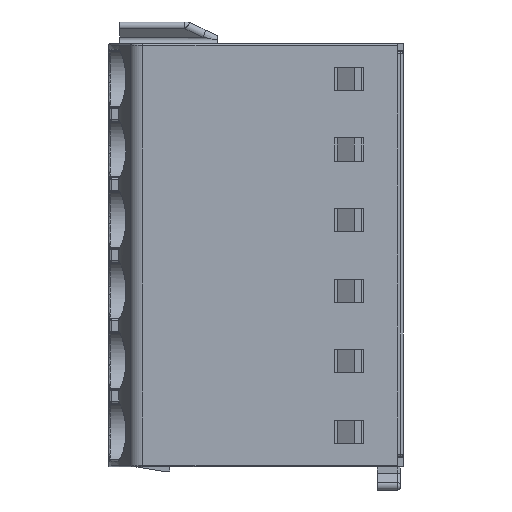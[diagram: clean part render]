
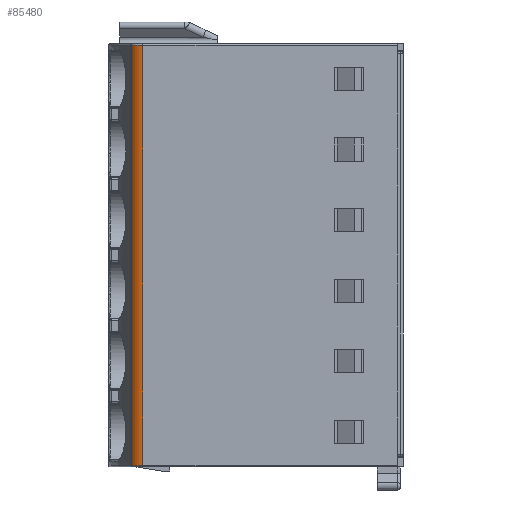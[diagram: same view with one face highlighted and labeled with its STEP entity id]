
A CAD part, left-side view. The second image highlights one B-rep face of the part: STEP entity #85480.
In plain terms, the highlighted cylindrical face has radius 1 mm (diameter 2 mm), a partial arc.
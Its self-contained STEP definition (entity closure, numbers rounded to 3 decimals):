
#3852=DIRECTION('',(0.,0.,-1.));
#3853=VECTOR('',#3852,0.2);
#3854=CARTESIAN_POINT('',(-2.3,16.741,
-14.4));
#3855=LINE('',#3854,#3853);
#3856=DIRECTION('',(0.,0.,-1.));
#3857=VECTOR('',#3856,5.);
#3858=CARTESIAN_POINT('',(-2.3,16.741,
-14.6));
#3859=LINE('',#3858,#3857);
#3860=DIRECTION('',(0.,0.,-1.));
#3861=VECTOR('',#3860,0.2);
#3862=CARTESIAN_POINT('',(-2.3,16.741,
-19.6));
#3863=LINE('',#3862,#3861);
#3864=DIRECTION('',(0.,0.,-1.));
#3865=VECTOR('',#3864,5.);
#3866=CARTESIAN_POINT('',(-2.3,16.741,
-19.8));
#3867=LINE('',#3866,#3865);
#3868=DIRECTION('',(0.,0.,-1.));
#3869=VECTOR('',#3868,0.2);
#3870=CARTESIAN_POINT('',(-2.3,16.741,
-24.8));
#3871=LINE('',#3870,#3869);
#3872=DIRECTION('',(0.,0.,-1.));
#3873=VECTOR('',#3872,5.);
#3874=CARTESIAN_POINT('',(-2.3,16.741,
-25.));
#3875=LINE('',#3874,#3873);
#3876=DIRECTION('',(0.,0.,1.));
#3877=VECTOR('',#3876,31.);
#3878=CARTESIAN_POINT('',(-1.775,17.616,-30.));
#3879=LINE('',#3878,#3877);
#3880=DIRECTION('',(0.,0.,-1.));
#3881=VECTOR('',#3880,5.);
#3882=CARTESIAN_POINT('',(-2.3,16.741,1.));
#3883=LINE('',#3882,#3881);
#3884=DIRECTION('',(0.,0.,-1.));
#3885=VECTOR('',#3884,0.2);
#3886=CARTESIAN_POINT('',(-2.3,16.741,
-4.));
#3887=LINE('',#3886,#3885);
#3888=DIRECTION('',(0.,0.,-1.));
#3889=VECTOR('',#3888,5.);
#3890=CARTESIAN_POINT('',(-2.3,16.741,
-4.2));
#3891=LINE('',#3890,#3889);
#3892=DIRECTION('',(0.,0.,-1.));
#3893=VECTOR('',#3892,0.2);
#3894=CARTESIAN_POINT('',(-2.3,16.741,
-9.2));
#3895=LINE('',#3894,#3893);
#3932=DIRECTION('',(0.,0.,1.));
#3933=VECTOR('',#3932,5.);
#3934=CARTESIAN_POINT('',(-2.3,16.741,
-14.4));
#3935=LINE('',#3934,#3933);
#4354=CARTESIAN_POINT('',(-1.3,16.736,-30.));
#4355=DIRECTION('',(0.,0.,1.));
#4356=DIRECTION('',(-0.475,0.88,0.));
#4357=AXIS2_PLACEMENT_3D('',#4354,#4355,#4356);
#4712=CARTESIAN_POINT('',(-1.3,16.736,1.));
#4713=DIRECTION('',(0.,0.,-1.));
#4714=DIRECTION('',(-1.,0.005,0.));
#4715=AXIS2_PLACEMENT_3D('',#4712,#4713,#4714);
#66046=CARTESIAN_POINT('',(-1.775,17.616,1.));
#66047=VERTEX_POINT('',#66046);
#67506=CARTESIAN_POINT('',(-2.3,16.741,1.));
#67507=VERTEX_POINT('',#67506);
#67508=CARTESIAN_POINT('',(-2.3,16.741,
-4.));
#67509=VERTEX_POINT('',#67508);
#67510=CARTESIAN_POINT('',(-2.3,16.741,
-4.2));
#67511=VERTEX_POINT('',#67510);
#67512=CARTESIAN_POINT('',(-2.3,16.741,
-9.2));
#67513=VERTEX_POINT('',#67512);
#67514=CARTESIAN_POINT('',(-2.3,16.741,
-9.4));
#67515=VERTEX_POINT('',#67514);
#73240=CARTESIAN_POINT('',(-1.775,17.616,-30.));
#73241=VERTEX_POINT('',#73240);
#75293=CARTESIAN_POINT('',(-2.3,16.741,-30.));
#75294=VERTEX_POINT('',#75293);
#75295=CARTESIAN_POINT('',(-2.3,16.741,
-24.8));
#75296=CARTESIAN_POINT('',(-2.3,16.741,
-25.));
#75297=VERTEX_POINT('',#75295);
#75298=VERTEX_POINT('',#75296);
#75299=CARTESIAN_POINT('',(-2.3,16.741,
-14.4));
#75300=CARTESIAN_POINT('',(-2.3,16.741,
-14.6));
#75301=VERTEX_POINT('',#75299);
#75302=VERTEX_POINT('',#75300);
#75303=CARTESIAN_POINT('',(-2.3,16.741,
-19.6));
#75304=VERTEX_POINT('',#75303);
#75305=CARTESIAN_POINT('',(-2.3,16.741,
-19.8));
#75306=VERTEX_POINT('',#75305);
#85446=CARTESIAN_POINT('',(-1.3,16.736,-14.7));
#85447=DIRECTION('',(0.,0.,1.));
#85448=DIRECTION('',(-1.,0.,0.));
#85449=AXIS2_PLACEMENT_3D('',#85446,#85447,#85448);
#85450=CYLINDRICAL_SURFACE('',#85449,1.);
#85452=ORIENTED_EDGE('',*,*,#85451,.F.);
#85454=ORIENTED_EDGE('',*,*,#85453,.T.);
#85456=ORIENTED_EDGE('',*,*,#85455,.T.);
#85458=ORIENTED_EDGE('',*,*,#85457,.T.);
#85460=ORIENTED_EDGE('',*,*,#85459,.T.);
#85462=ORIENTED_EDGE('',*,*,#85461,.T.);
#85464=ORIENTED_EDGE('',*,*,#85463,.T.);
#85466=ORIENTED_EDGE('',*,*,#85465,.F.);
#85467=ORIENTED_EDGE('',*,*,#85363,.T.);
#85469=ORIENTED_EDGE('',*,*,#85468,.F.);
#85471=ORIENTED_EDGE('',*,*,#85470,.T.);
#85473=ORIENTED_EDGE('',*,*,#85472,.T.);
#85475=ORIENTED_EDGE('',*,*,#85474,.T.);
#85477=ORIENTED_EDGE('',*,*,#85476,.T.);
#85478=EDGE_LOOP('',(#85452,#85454,#85456,#85458,#85460,#85462,#85464,#85466,
#85467,#85469,#85471,#85473,#85475,#85477));
#85479=FACE_OUTER_BOUND('',#85478,.F.);
#85480=ADVANCED_FACE('',(#85479),#85450,.T.);
#4358=CIRCLE('',#4357,1.);
#4716=CIRCLE('',#4715,1.);
#85363=EDGE_CURVE('',#73241,#66047,#3879,.T.);
#85451=EDGE_CURVE('',#75301,#67515,#3935,.T.);
#85453=EDGE_CURVE('',#75301,#75302,#3855,.T.);
#85455=EDGE_CURVE('',#75302,#75304,#3859,.T.);
#85457=EDGE_CURVE('',#75304,#75306,#3863,.T.);
#85459=EDGE_CURVE('',#75306,#75297,#3867,.T.);
#85461=EDGE_CURVE('',#75297,#75298,#3871,.T.);
#85463=EDGE_CURVE('',#75298,#75294,#3875,.T.);
#85465=EDGE_CURVE('',#73241,#75294,#4358,.T.);
#85468=EDGE_CURVE('',#67507,#66047,#4716,.T.);
#85470=EDGE_CURVE('',#67507,#67509,#3883,.T.);
#85472=EDGE_CURVE('',#67509,#67511,#3887,.T.);
#85474=EDGE_CURVE('',#67511,#67513,#3891,.T.);
#85476=EDGE_CURVE('',#67513,#67515,#3895,.T.);
